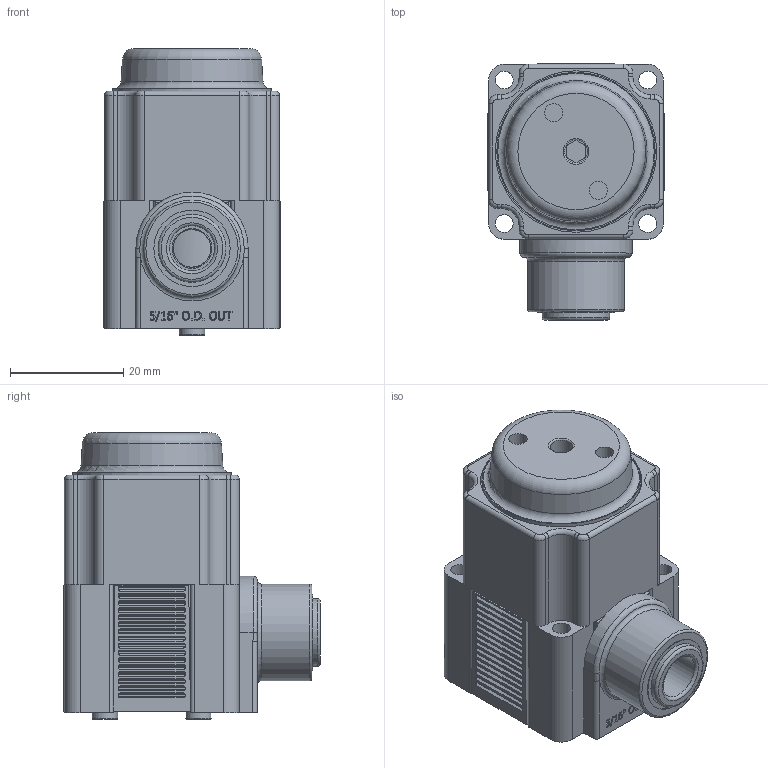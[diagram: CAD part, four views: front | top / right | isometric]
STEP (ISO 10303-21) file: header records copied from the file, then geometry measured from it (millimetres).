
FILE_DESCRIPTION(/* description */ (''),/* implementation_level */ '2;1');
FILE_NAME(/* name */ 'K:\Normteile INVENTOR\Air-Logic\Regulators\PR6000\PR 6___ 6 Push-In Fitting for 5''16 O.D. Tube Out.igs.ipt.stp',/* time_stamp */ '2020-05-27T10:53:06+02:00',/* author */ ('Paul'),/* organization */ (''),/* preprocessor_version */ 'ST-DEVELOPER v18',/* originating_system */ 'Autodesk Inventor 2020',/* authorisation */ '');
FILE_SCHEMA (('AUTOMOTIVE_DESIGN { 1 0 10303 214 3 1 1 }'));
Length unit declared in the file: inch
Products named in the file (1): PR 6___ 6 Push-In Fitting for 5'16 O.D. Tube Out.igs
Bounding box: 31.19 x 45.41 x 50.78 mm (x, y, z)
Volume: 41891.4 mm3; surface area: 14459.4 mm2
Topology: 1 solids, 1 shells, 815 faces, 2112 edges, 1392 vertices
Faces by surface type: plane 405, cylinder 274, bspline 99, torus 34, cone 3
Full cylindrical faces by diameter (mm): 1.194 x1, 2.032 x1, 3.124 x2, 3.175 x8, 3.226 x2, 4.013 x1, 4.521 x2, 7.061 x1, 8.001 x1, 8.382 x2, 9.169 x1, 9.398 x1, 11.972 x1, 12.014 x1, 12.903 x1, 13.513 x1, 17.094 x1, 25.781 x1, 28.047 x1, 28.575 x1
Entity records: 29239 total; most frequent: CARTESIAN_POINT 8427, ORIENTED_EDGE 4224, DIRECTION 4082, EDGE_CURVE 2112, AXIS2_PLACEMENT_3D 1546, VERTEX_POINT 1392, LINE 990, VECTOR 990
